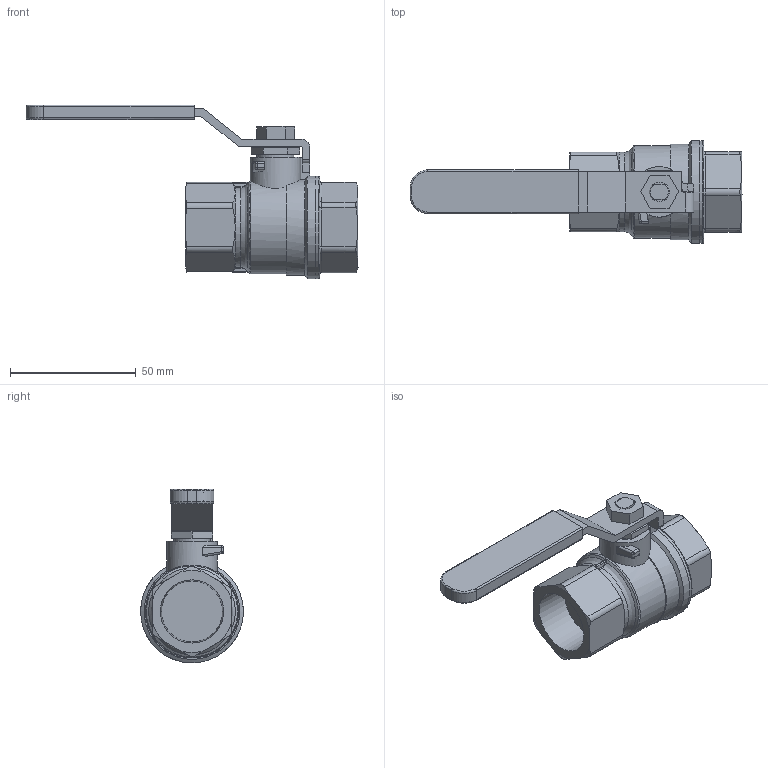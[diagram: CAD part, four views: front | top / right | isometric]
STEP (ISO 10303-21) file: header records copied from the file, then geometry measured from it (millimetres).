
FILE_DESCRIPTION((' '),'2;1');
FILE_NAME('N:\Technical Support\Private\Jomar Valve CAD\Ball Valves\Brass\T-100NE[G]\.75 T-100NE[G] (100-704[NGDZ])FusionCopy.stp.step','2016-07-28T09:40:35',(' '),(' '),' ','ACIS',' ');
FILE_SCHEMA(('CONFIG_CONTROL_DESIGN'));
Length unit declared in the file: inch
Products named in the file (9): N:\Technical Support\Private\Jomar Valve CAD\Ball Valves\Brass\T-100NE[G]\.75 T-100NE[G] (100-704[NGDZ])FusionCopy.stp.step; Body1; Body2; Body3; Body4; Body5; Body6; Body7; Body8
Assembly tree (8 placements, depth 2):
  N:\Technical Support\Private\Jomar Valve CAD\Ball Valves\Brass\T-100NE[G]\.75 T-100NE[G] (100-704[NGDZ])FusionCopy.stp.step
    Body1
    Body2
    Body3
    Body4
    Body5
    Body6
    Body7
    Body8
Bounding box: 131.86 x 40.84 x 69.01 mm (x, y, z)
Volume: 70416.8 mm3; surface area: 25074.2 mm2
Topology: 8 solids, 8 shells, 213 faces, 532 edges, 339 vertices
Faces by surface type: plane 77, cylinder 60, cone 40, bspline 28, torus 6, sphere 2
Full cylindrical faces by diameter (mm): 7.62 x1, 9.779 x1, 14.669 x1, 40.843 x2
Entity records: 8221 total; most frequent: CARTESIAN_POINT 2307, ORIENTED_EDGE 1032, DIRECTION 911, EDGE_CURVE 516, AXIS2_PLACEMENT_3D 350, VERTEX_POINT 335, EDGE_LOOP 233, FACE_OUTER_BOUND 213
